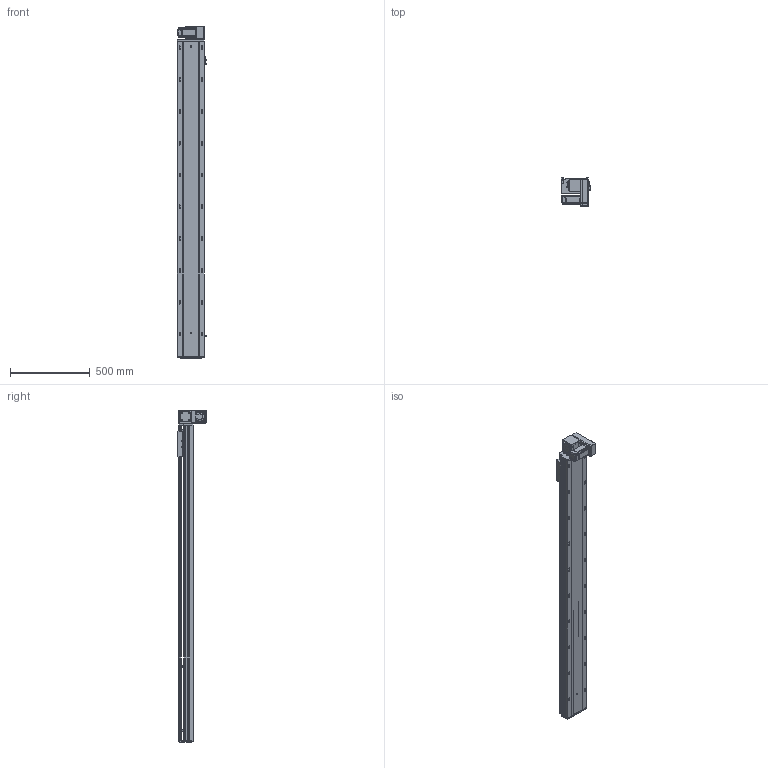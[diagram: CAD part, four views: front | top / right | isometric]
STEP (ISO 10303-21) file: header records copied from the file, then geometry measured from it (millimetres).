
FILE_DESCRIPTION (( 'STEP AP203' ), '1' );
FILE_NAME ('RY170-T-300-DR-P400W.SLDASM_1700.step', '2021-03-01T08:24:27', ( '盈信电脑' ), ( '东莞市道滘镇水果街19号' ), 'SwSTEP 2.0', 'SolidWorks 2012', '' );
FILE_SCHEMA (( 'CONFIG_CONTROL_DESIGN' ));
Length unit declared in the file: millimetre
Products named in the file (19): RY170-T-300-DR-P400W.SLDASM_1700; 滅袉蝶18-10; 15; RY170-T-呴雄粣揤踡啣; RY170-T蹟翐M4; RY120-T主同步轮轴承压盖; RY170-T肮祭謫裔啣; RY170-T肮祭湍揤踡輸1; RY170同步轮电机安装板(400W); RY170肮祭謫萇儂欶; RY170-T肮祭湍揤踡輸2; RY170翋肮祭謫釱; RY170肮祭謫ヶ裔啣; RY170外置感应片(200共用）; RY170綴裔啣; RY170-T-300肮祭謫倰第裔啣-DR_1700; 覜茼ん672; RY170肮祭湍臏賑輸; RY170-T-300肮祭謫倰第菁釱-DR_1700
Assembly tree (23 placements, depth 2):
  RY170-T-300-DR-P400W.SLDASM_1700
    RY170-T-300肮祭謫倰第菁釱-DR_1700
    RY170肮祭湍臏賑輸
    RY170-T-300肮祭謫倰第裔啣-DR_1700
    RY170綴裔啣
    覜茼ん672  x3
    RY170外置感应片(200共用）
    RY170肮祭謫ヶ裔啣
    RY170翋肮祭謫釱
    RY170同步轮电机安装板(400W)
    RY170肮祭謫萇儂欶
    RY170-T肮祭湍揤踡輸1  x2
    RY170-T肮祭湍揤踡輸2  x2
    RY120-T主同步轮轴承压盖
    RY170-T肮祭謫裔啣
    RY170-T蹟翐M4
    滅袉蝶18-10  x2
    RY170-T-呴雄粣揤踡啣
    15
Bounding box: 183.7 x 178 x 2088 mm (x, y, z)
Volume: 9838726.7 mm3; surface area: 3377399.8 mm2
Topology: 23 solids, 23 shells, 2926 faces, 8162 edges, 5213 vertices
Faces by surface type: cylinder 1342, plane 1270, cone 284, bspline 30
Entity records: 88309 total; most frequent: CARTESIAN_POINT 20068, ORIENTED_EDGE 13936, DIRECTION 13662, EDGE_CURVE 6968, AXIS2_PLACEMENT_3D 4837, VERTEX_POINT 4569, LINE 3988, VECTOR 3988
